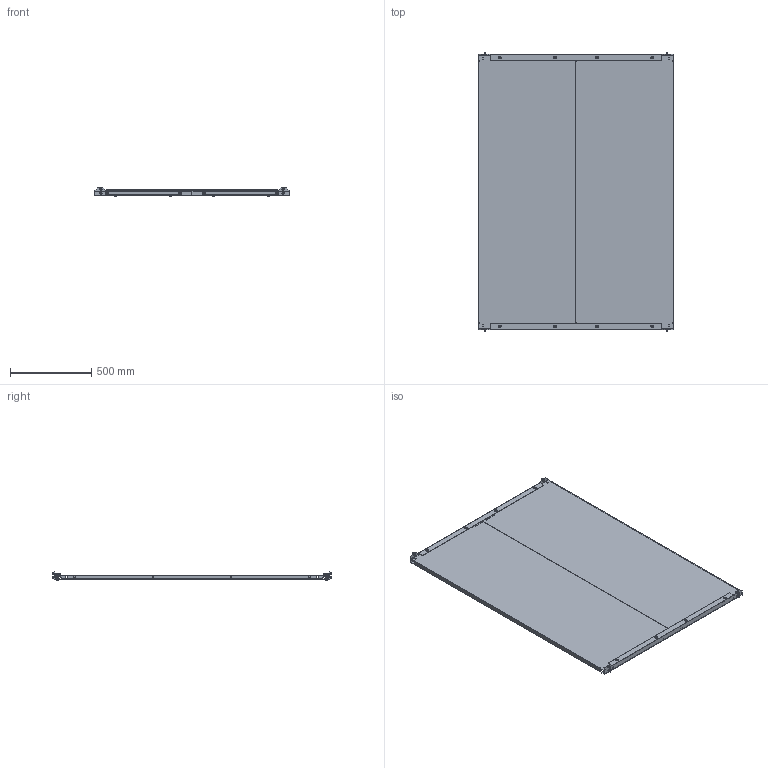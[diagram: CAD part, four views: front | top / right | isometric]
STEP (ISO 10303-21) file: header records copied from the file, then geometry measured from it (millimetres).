
FILE_DESCRIPTION(('Open CASCADE Model'),'2;1');
FILE_NAME('Open CASCADE Shape Model','2025-02-13T16:50:00',('Author'),( 'Open CASCADE'),'Open CASCADE STEP processor 7.8','Open CASCADE 7.8' ,'Unknown');
FILE_SCHEMA(('AUTOMOTIVE_DESIGN { 1 0 10303 214 1 1 1 1 }'));
Length unit declared in the file: millimetre
Products named in the file (14): Compound1; Compound2; Solid1; Solid2; Solid3; Solid4; Compound3; Solid5; Solid6; Solid7; Solid8; Solid9; Solid10; Solid11
Assembly tree (72 placements, depth 3):
  Compound1
    Compound2
      Solid1  x2
      Solid2  x2
      Solid3  x12
      Solid4  x12
    Compound3  x2
      Solid5
      Solid6
    Solid3  x4
    Solid7  x4
    Solid8  x8
    Solid9  x4
    Solid10  x8
    Solid11  x8
Bounding box: 1200 x 1726 x 55.3 mm (x, y, z)
Volume: 6542552.2 mm3; surface area: 5287847.2 mm2
Topology: 74 solids, 74 shells, 4332 faces, 11362 edges, 7154 vertices
Faces by surface type: plane 2088, cylinder 1212, cone 440, bspline 376, torus 200, sphere 16
Full cylindrical faces by diameter (mm): 5 x24, 6 x40, 6.5 x8, 6.8 x64, 8 x8, 8.3 x8, 8.4 x4, 9.5 x8, 10.1 x8, 10.44 x8, 10.5 x8, 11.57 x8, 12 x8, 12.65 x8, 16 x20, 16.55 x16
Entity records: 25786 total; most frequent: CARTESIAN_POINT 6836, ORIENTED_EDGE 3986, DIRECTION 3650, EDGE_CURVE 1993, VERTEX_POINT 1277, LINE 1276, VECTOR 1276, AXIS2_PLACEMENT_3D 1187
